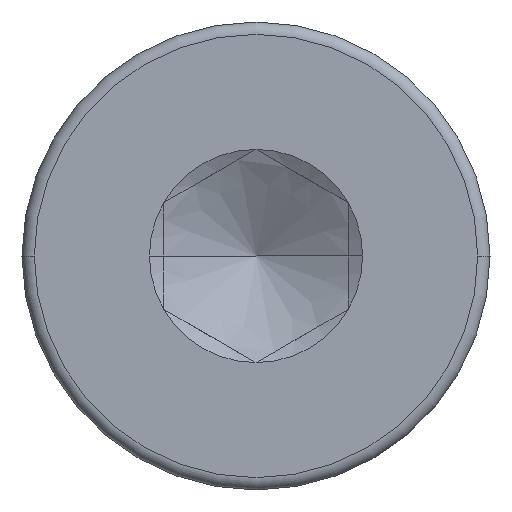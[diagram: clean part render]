
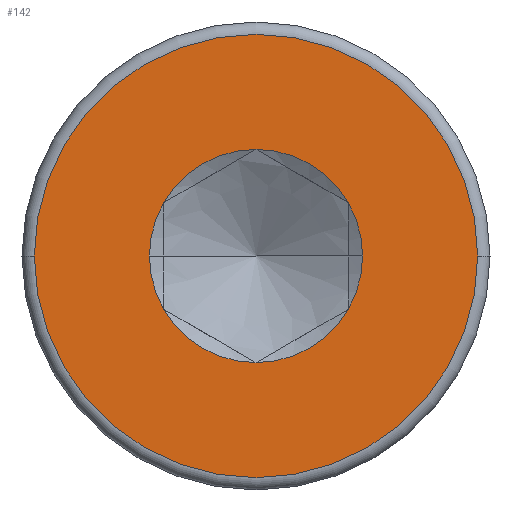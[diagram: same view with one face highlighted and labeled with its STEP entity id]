
A CAD part, left-side view. The second image highlights one B-rep face of the part: STEP entity #142.
In plain terms, the highlighted planar face has unit normal (-1, 0, 0).
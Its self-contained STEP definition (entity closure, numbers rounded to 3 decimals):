
#63=FACE_BOUND('',#214,.F.);
#74=PLANE('',#850);
#142=ADVANCED_FACE('',(#63,#177),#74,.T.);
#177=FACE_OUTER_BOUND('',#215,.F.);
#214=EDGE_LOOP('',(#338,#339,#340,#341,#342,#343,#344,#345));
#215=EDGE_LOOP('',(#346,#347));
#338=ORIENTED_EDGE('',*,*,#695,.T.);
#339=ORIENTED_EDGE('',*,*,#694,.T.);
#340=ORIENTED_EDGE('',*,*,#693,.T.);
#341=ORIENTED_EDGE('',*,*,#700,.T.);
#342=ORIENTED_EDGE('',*,*,#699,.T.);
#343=ORIENTED_EDGE('',*,*,#698,.T.);
#344=ORIENTED_EDGE('',*,*,#697,.T.);
#345=ORIENTED_EDGE('',*,*,#696,.T.);
#346=ORIENTED_EDGE('',*,*,#708,.F.);
#347=ORIENTED_EDGE('',*,*,#701,.F.);
#693=EDGE_CURVE('',#779,#766,#727,.T.);
#694=EDGE_CURVE('',#780,#779,#728,.T.);
#695=EDGE_CURVE('',#781,#780,#729,.T.);
#696=EDGE_CURVE('',#767,#781,#730,.T.);
#697=EDGE_CURVE('',#782,#767,#731,.T.);
#698=EDGE_CURVE('',#776,#782,#732,.T.);
#699=EDGE_CURVE('',#777,#776,#733,.T.);
#700=EDGE_CURVE('',#766,#777,#734,.T.);
#701=EDGE_CURVE('',#756,#755,#735,.T.);
#708=EDGE_CURVE('',#755,#756,#740,.T.);
#727=CIRCLE('',#810,0.865);
#728=CIRCLE('',#811,0.865);
#729=CIRCLE('',#812,0.865);
#730=CIRCLE('',#813,0.865);
#731=CIRCLE('',#814,0.865);
#732=CIRCLE('',#815,0.865);
#733=CIRCLE('',#816,0.865);
#734=CIRCLE('',#817,0.865);
#735=CIRCLE('',#818,1.8);
#740=CIRCLE('',#823,1.8);
#755=VERTEX_POINT('',#1052);
#756=VERTEX_POINT('',#1053);
#766=VERTEX_POINT('',#1063);
#767=VERTEX_POINT('',#1064);
#776=VERTEX_POINT('',#1073);
#777=VERTEX_POINT('',#1074);
#779=VERTEX_POINT('',#1076);
#780=VERTEX_POINT('',#1077);
#781=VERTEX_POINT('',#1078);
#782=VERTEX_POINT('',#1079);
#810=AXIS2_PLACEMENT_3D('',#1199,#925,#926);
#811=AXIS2_PLACEMENT_3D('',#1200,#927,#928);
#812=AXIS2_PLACEMENT_3D('',#1201,#929,#930);
#813=AXIS2_PLACEMENT_3D('',#1202,#931,#932);
#814=AXIS2_PLACEMENT_3D('',#1203,#933,#934);
#815=AXIS2_PLACEMENT_3D('',#1204,#935,#936);
#816=AXIS2_PLACEMENT_3D('',#1205,#937,#938);
#817=AXIS2_PLACEMENT_3D('',#1206,#939,#940);
#818=AXIS2_PLACEMENT_3D('',#1207,#941,#942);
#823=AXIS2_PLACEMENT_3D('',#1214,#953,#954);
#850=AXIS2_PLACEMENT_3D('',#1241,#1007,#1008);
#925=DIRECTION('',(-1.,0.,0.));
#926=DIRECTION('',(0.,0.866,0.5));
#927=DIRECTION('',(-1.,0.,0.));
#928=DIRECTION('',(0.,0.,1.));
#929=DIRECTION('',(-1.,0.,0.));
#930=DIRECTION('',(0.,-0.866,0.5));
#931=DIRECTION('',(-1.,0.,0.));
#932=DIRECTION('',(0.,-1.,0.));
#933=DIRECTION('',(-1.,0.,0.));
#934=DIRECTION('',(0.,-0.866,-0.5));
#935=DIRECTION('',(-1.,0.,0.));
#936=DIRECTION('',(0.,0.,-1.));
#937=DIRECTION('',(-1.,0.,0.));
#938=DIRECTION('',(0.,0.867,-0.499));
#939=DIRECTION('',(-1.,0.,0.));
#940=DIRECTION('',(0.,1.,0.));
#941=DIRECTION('',(-1.,0.,0.));
#942=DIRECTION('',(0.,1.,0.));
#953=DIRECTION('',(-1.,0.,0.));
#954=DIRECTION('',(0.,-1.,0.));
#1007=DIRECTION('',(-1.,0.,0.));
#1008=DIRECTION('',(0.,0.,1.));
#1052=CARTESIAN_POINT('',(31.975,2.799,340.443));
#1053=CARTESIAN_POINT('',(31.975,6.399,340.443));
#1063=CARTESIAN_POINT('',(31.975,5.465,340.443));
#1064=CARTESIAN_POINT('',(31.975,3.734,340.443));
#1073=CARTESIAN_POINT('',(31.975,4.599,339.578));
#1074=CARTESIAN_POINT('',(31.975,5.349,340.011));
#1076=CARTESIAN_POINT('',(31.975,5.349,340.876));
#1077=CARTESIAN_POINT('',(31.975,4.599,341.309));
#1078=CARTESIAN_POINT('',(31.975,3.849,340.876));
#1079=CARTESIAN_POINT('',(31.975,3.849,340.01));
#1199=CARTESIAN_POINT('',(31.975,4.599,340.443));
#1200=CARTESIAN_POINT('',(31.975,4.599,340.443));
#1201=CARTESIAN_POINT('',(31.975,4.599,340.443));
#1202=CARTESIAN_POINT('',(31.975,4.599,340.443));
#1203=CARTESIAN_POINT('',(31.975,4.599,340.443));
#1204=CARTESIAN_POINT('',(31.975,4.599,340.443));
#1205=CARTESIAN_POINT('',(31.975,4.599,340.443));
#1206=CARTESIAN_POINT('',(31.975,4.599,340.443));
#1207=CARTESIAN_POINT('',(31.975,4.599,340.443));
#1214=CARTESIAN_POINT('',(31.975,4.599,340.443));
#1241=CARTESIAN_POINT('',(31.975,2.763,338.607));
